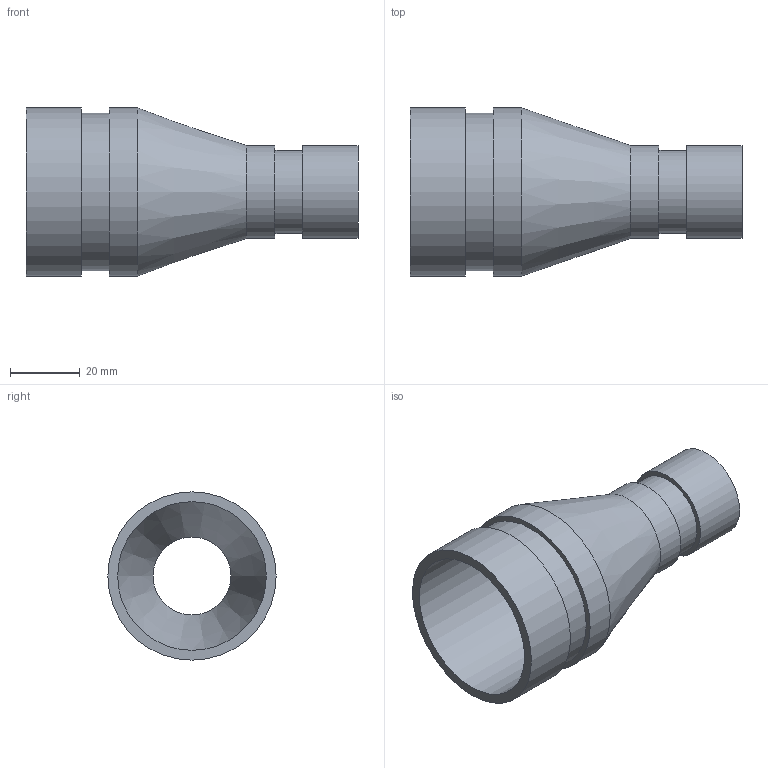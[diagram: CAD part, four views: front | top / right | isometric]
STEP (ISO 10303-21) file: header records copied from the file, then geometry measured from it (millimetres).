
FILE_DESCRIPTION(/* description */ ('VIC REDUCER CONCENTRIC No 450-SS','CAx-IF Rec.Pracs.---Representation and Presentation of Product Manufacturing Information (PMI)---4.0---2014-10-13'),/* implementation_level */ '2;1');
FILE_NAME(/* name */ 'C:\Users\kkamble\AppData\Roaming\Autodesk\ApplicationPlugins\Back Up\Victaulic_SS-OGS_Reducer Concentric_Sched 10S_No 450 SS (OGS)\Victaulic_SS-OGS_Reducer Concentric_Sched 10S_No 450 SS (OGS)_01.5x0.75 (40x20).stp',/* time_stamp */ '2020-09-08T12:31:44+05:00',/* author */ ('CORINNE GRAY'),/* organization */ ('Victaulic'),/* preprocessor_version */ 'ST-DEVELOPER v17.2',/* originating_system */ 'Autodesk Inventor 2019',/* authorisation */ '');
FILE_SCHEMA (('AP242_MANAGED_MODEL_BASED_3D_ENGINEERING_MIM_LF { 1 0 10303 442 1 1 4 }'));
Length unit declared in the file: inch
Products named in the file (1): 450 SS-01.5x0.75
Bounding box: 95.25 x 48.26 x 48.26 mm (x, y, z)
Volume: 23958.8 mm3; surface area: 22423.7 mm2
Topology: 1 solids, 1 shells, 16 faces, 42 edges, 32 vertices
Faces by surface type: cylinder 8, plane 6, cone 2
Full cylindrical faces by diameter (mm): 22.352 x1, 23.825 x1, 26.67 x2, 42.672 x1, 45.085 x1, 48.26 x2
Entity records: 686 total; most frequent: DIRECTION 134, CARTESIAN_POINT 108, ORIENTED_EDGE 84, AXIS2_PLACEMENT_3D 62, EDGE_CURVE 42, CIRCLE 32, VERTEX_POINT 32, EDGE_LOOP 22
